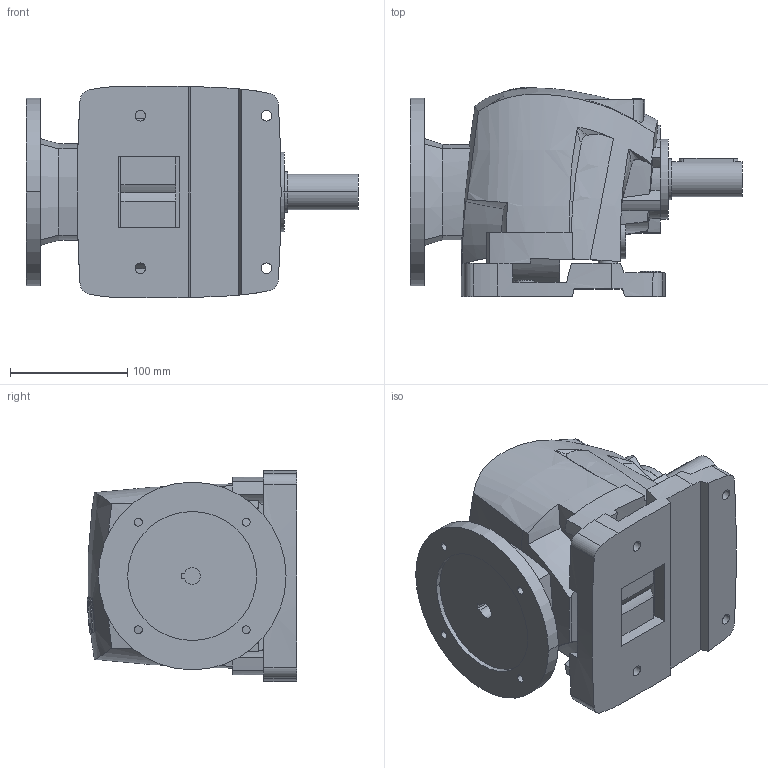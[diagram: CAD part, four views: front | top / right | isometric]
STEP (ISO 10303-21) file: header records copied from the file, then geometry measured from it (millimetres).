
FILE_DESCRIPTION((''),'2;1');
FILE_NAME('R25_BF_PAM71_D2','2013-12-16T',('Luca'),(''),'PRO/ENGINEER BY PARAMETRIC TECHNOLOGY CORPORATION, 2008230','PRO/ENGINEER BY PARAMETRIC TECHNOLOGY CORPORATION, 2008230','');
FILE_SCHEMA(('CONFIG_CONTROL_DESIGN'));
Length unit declared in the file: millimetre
Products named in the file (1): R25_BF_PAM71_D2
Bounding box: 283 x 178.3 x 180.47 mm (x, y, z)
Volume: 3947899.2 mm3; surface area: 259522 mm2
Topology: 1 solids, 5 shells, 442 faces, 1217 edges, 813 vertices
Faces by surface type: plane 170, cylinder 143, bspline 113, cone 8, torus 6, extrusion 2
Entity records: 19953 total; most frequent: CARTESIAN_POINT 9472, ORIENTED_EDGE 2430, DIRECTION 1752, EDGE_CURVE 1215, VERTEX_POINT 813, AXIS2_PLACEMENT_3D 614, VECTOR 524, LINE 522
